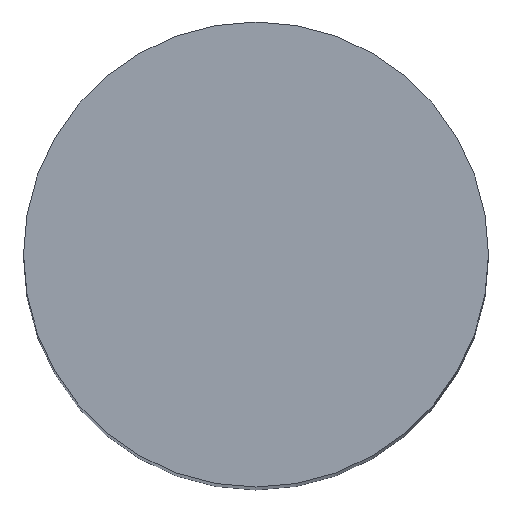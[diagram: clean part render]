
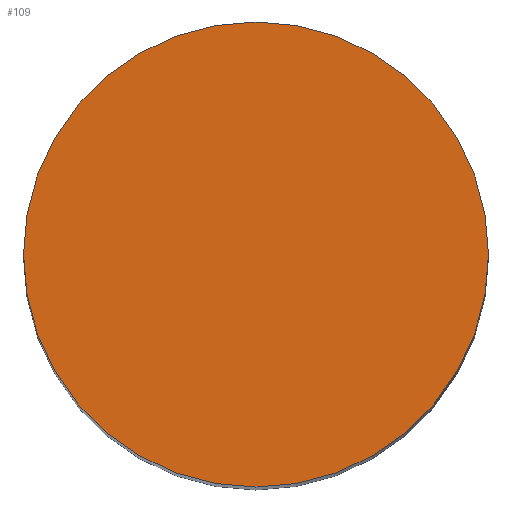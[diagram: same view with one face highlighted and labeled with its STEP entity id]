
A CAD part, top view. The second image highlights one B-rep face of the part: STEP entity #109.
In plain terms, the highlighted planar face has unit normal (0, 0, 1).
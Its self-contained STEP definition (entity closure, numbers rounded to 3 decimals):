
#24 = VERTEX_POINT('',#25);
#25 = CARTESIAN_POINT('',(-9.38,-5.,95.63));
#32 = CYLINDRICAL_SURFACE('',#33,7.62);
#33 = AXIS2_PLACEMENT_3D('',#34,#35,#36);
#34 = CARTESIAN_POINT('',(-17.,-5.,40.));
#35 = DIRECTION('',(-0.,-0.,-1.));
#36 = DIRECTION('',(1.,0.,0.));
#51 = EDGE_CURVE('',#24,#24,#52,.T.);
#52 = SURFACE_CURVE('',#53,(#58,#65),.PCURVE_S1.);
#53 = CIRCLE('',#54,7.62);
#54 = AXIS2_PLACEMENT_3D('',#55,#56,#57);
#55 = CARTESIAN_POINT('',(-17.,-5.,95.63));
#56 = DIRECTION('',(0.,0.,1.));
#57 = DIRECTION('',(1.,0.,0.));
#58 = PCURVE('',#32,#59);
#59 = DEFINITIONAL_REPRESENTATION('',(#60),#64);
#60 = LINE('',#61,#62);
#61 = CARTESIAN_POINT('',(-0.,-55.63));
#62 = VECTOR('',#63,1.);
#63 = DIRECTION('',(-1.,0.));
#64 = ( GEOMETRIC_REPRESENTATION_CONTEXT(2) 
PARAMETRIC_REPRESENTATION_CONTEXT() REPRESENTATION_CONTEXT('2D SPACE',''
  ) );
#65 = PCURVE('',#66,#71);
#66 = PLANE('',#67);
#67 = AXIS2_PLACEMENT_3D('',#68,#69,#70);
#68 = CARTESIAN_POINT('',(-17.,-5.,95.63));
#69 = DIRECTION('',(0.,0.,1.));
#70 = DIRECTION('',(1.,0.,-0.));
#71 = DEFINITIONAL_REPRESENTATION('',(#72),#76);
#72 = CIRCLE('',#73,7.62);
#73 = AXIS2_PLACEMENT_2D('',#74,#75);
#74 = CARTESIAN_POINT('',(0.,0.));
#75 = DIRECTION('',(1.,0.));
#76 = ( GEOMETRIC_REPRESENTATION_CONTEXT(2) 
PARAMETRIC_REPRESENTATION_CONTEXT() REPRESENTATION_CONTEXT('2D SPACE',''
  ) );
#109 = ADVANCED_FACE('',(#110),#66,.T.);
#110 = FACE_BOUND('',#111,.T.);
#111 = EDGE_LOOP('',(#112));
#112 = ORIENTED_EDGE('',*,*,#51,.T.);
